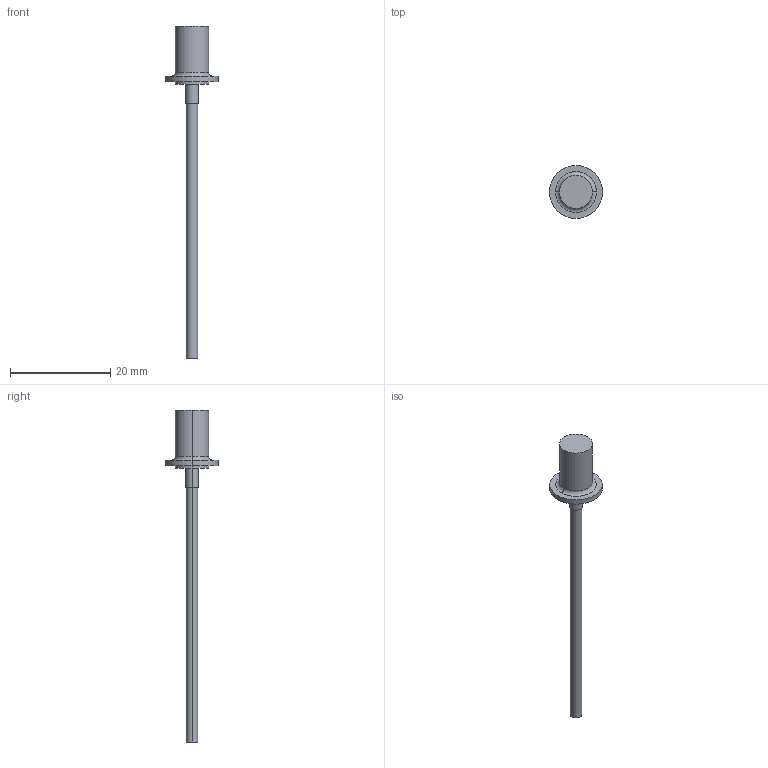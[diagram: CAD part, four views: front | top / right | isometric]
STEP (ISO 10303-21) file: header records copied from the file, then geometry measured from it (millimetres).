
FILE_DESCRIPTION (( 'STEP AP203' ), '1' );
FILE_NAME ('KD-1925 Flanged.STEP', '2010-03-05T19:02:03', ( 'tom edwards' ), ( 'Tom J. Edwards' ), 'SwSTEP 2.0', 'SolidWorks 2008', '' );
FILE_SCHEMA (( 'CONFIG_CONTROL_DESIGN' ));
Length unit declared in the file: inch
Products named in the file (1): KD-1925 Flanged
Bounding box: 10.54 x 10.54 x 66.18 mm (x, y, z)
Volume: 683.1 mm3; surface area: 816.5 mm2
Topology: 1 solids, 1 shells, 18 faces, 34 edges, 22 vertices
Faces by surface type: cylinder 10, plane 6, torus 2
Entity records: 545 total; most frequent: DIRECTION 96, CARTESIAN_POINT 75, ORIENTED_EDGE 68, AXIS2_PLACEMENT_3D 43, EDGE_CURVE 34, CIRCLE 24, VERTEX_POINT 22, EDGE_LOOP 22
